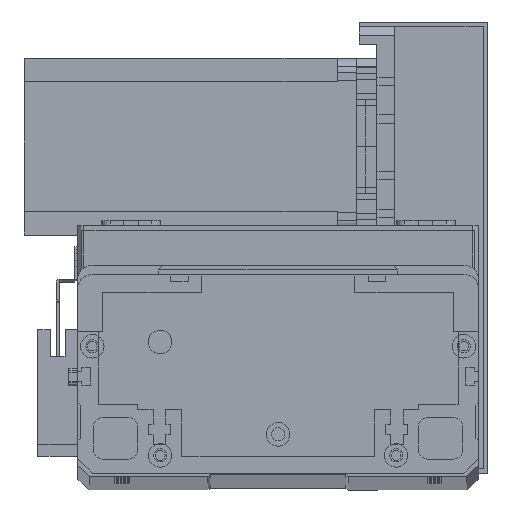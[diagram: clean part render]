
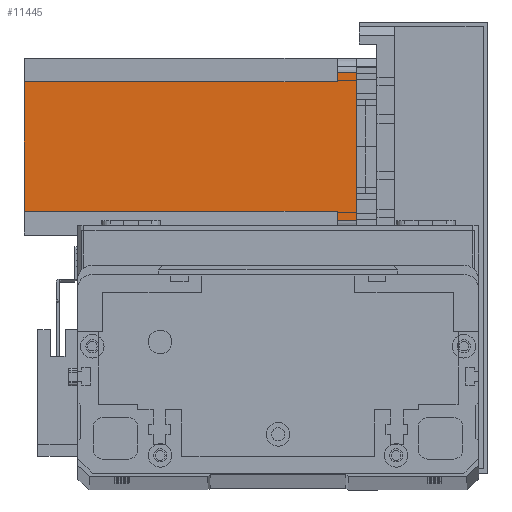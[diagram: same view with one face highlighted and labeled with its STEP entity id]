
A CAD part, top view. The second image highlights one B-rep face of the part: STEP entity #11445.
In plain terms, the highlighted planar face has unit normal (0, 0, 1) as drawn and (0, 1, 0) by its records, which use the part's own axes.
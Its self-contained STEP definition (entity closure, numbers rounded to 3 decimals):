
#361 = LINE ( 'NONE', #26801, #18244 ) ;
#514 = EDGE_CURVE ( 'NONE', #11299, #30194, #10725, .T. ) ;
#1059 = EDGE_CURVE ( 'NONE', #29862, #12212, #10695, .T. ) ;
#1213 = DIRECTION ( 'NONE',  ( -1., 0., 0. ) ) ;
#1455 = CARTESIAN_POINT ( 'NONE',  ( 0., 60., 0. ) ) ;
#1755 = CARTESIAN_POINT ( 'NONE',  ( 5., 60., -112.5 ) ) ;
#1860 = DIRECTION ( 'NONE',  ( 0., 0., 1. ) ) ;
#1911 = ORIENTED_EDGE ( 'NONE', *, *, #8126, .T. ) ;
#2149 = LINE ( 'NONE', #8212, #17695 ) ;
#3312 = VECTOR ( 'NONE', #23825, 1000. ) ;
#3923 = DIRECTION ( 'NONE',  ( 0., 0., 1. ) ) ;
#4081 = ORIENTED_EDGE ( 'NONE', *, *, #26977, .T. ) ;
#4279 = VERTEX_POINT ( 'NONE', #8508 ) ;
#4289 = DIRECTION ( 'NONE',  ( 0., 1., 0. ) ) ;
#4642 = CARTESIAN_POINT ( 'NONE',  ( 0., 60., -112.5 ) ) ;
#4652 = ORIENTED_EDGE ( 'NONE', *, *, #514, .F. ) ;
#4883 = VECTOR ( 'NONE', #10985, 1000. ) ;
#4911 = PLANE ( 'NONE',  #16287 ) ;
#5212 = EDGE_CURVE ( 'NONE', #13425, #21433, #7405, .T. ) ;
#5456 = CARTESIAN_POINT ( 'NONE',  ( 5., 60., 0. ) ) ;
#5492 = LINE ( 'NONE', #29986, #23786 ) ;
#6814 = CARTESIAN_POINT ( 'NONE',  ( 5., 60., -6.5 ) ) ;
#7405 = LINE ( 'NONE', #1455, #13097 ) ;
#7728 = ORIENTED_EDGE ( 'NONE', *, *, #5212, .F. ) ;
#7812 = CARTESIAN_POINT ( 'NONE',  ( 52., 60., -112.5 ) ) ;
#8126 = EDGE_CURVE ( 'NONE', #12212, #21433, #22864, .T. ) ;
#8212 = CARTESIAN_POINT ( 'NONE',  ( 52., 60., -6.5 ) ) ;
#8508 = CARTESIAN_POINT ( 'NONE',  ( 8., 60., -112.5 ) ) ;
#8805 = DIRECTION ( 'NONE',  ( -1., 0., 0. ) ) ;
#10680 = DIRECTION ( 'NONE',  ( 1., 0., 0. ) ) ;
#10695 = LINE ( 'NONE', #17966, #3312 ) ;
#10725 = LINE ( 'NONE', #7812, #4883 ) ;
#10985 = DIRECTION ( 'NONE',  ( 0., 0., 1. ) ) ;
#11299 = VERTEX_POINT ( 'NONE', #17780 ) ;
#11445 = ADVANCED_FACE ( 'NONE', ( #25536 ), #4911, .T. ) ;
#11739 = LINE ( 'NONE', #25264, #18029 ) ;
#11934 = CARTESIAN_POINT ( 'NONE',  ( 8., 60., -6.5 ) ) ;
#11951 = ORIENTED_EDGE ( 'NONE', *, *, #1059, .T. ) ;
#12013 = EDGE_LOOP ( 'NONE', ( #7728, #29341, #17888, #4652, #4081, #16918, #11951, #1911 ) ) ;
#12212 = VERTEX_POINT ( 'NONE', #6814 ) ;
#13097 = VECTOR ( 'NONE', #1213, 1000. ) ;
#13425 = VERTEX_POINT ( 'NONE', #30132 ) ;
#16076 = DIRECTION ( 'NONE',  ( 0., 0., -1. ) ) ;
#16287 = AXIS2_PLACEMENT_3D ( 'NONE', #4642, #4289, #3923 ) ;
#16918 = ORIENTED_EDGE ( 'NONE', *, *, #27614, .F. ) ;
#17695 = VECTOR ( 'NONE', #10680, 1000. ) ;
#17780 = CARTESIAN_POINT ( 'NONE',  ( 52., 60., -112.5 ) ) ;
#17888 = ORIENTED_EDGE ( 'NONE', *, *, #21475, .F. ) ;
#17966 = CARTESIAN_POINT ( 'NONE',  ( 8., 60., -6.5 ) ) ;
#18029 = VECTOR ( 'NONE', #8805, 1000. ) ;
#18244 = VECTOR ( 'NONE', #29162, 1000. ) ;
#18772 = EDGE_CURVE ( 'NONE', #13425, #23508, #361, .T. ) ;
#21433 = VERTEX_POINT ( 'NONE', #5456 ) ;
#21475 = EDGE_CURVE ( 'NONE', #30194, #23508, #2149, .T. ) ;
#22485 = CARTESIAN_POINT ( 'NONE',  ( 52., 60., -6.5 ) ) ;
#22864 = LINE ( 'NONE', #1755, #29001 ) ;
#23508 = VERTEX_POINT ( 'NONE', #30281 ) ;
#23786 = VECTOR ( 'NONE', #16076, 1000. ) ;
#23825 = DIRECTION ( 'NONE',  ( -1., 0., 0. ) ) ;
#25264 = CARTESIAN_POINT ( 'NONE',  ( 0., 60., -112.5 ) ) ;
#25536 = FACE_OUTER_BOUND ( 'NONE', #12013, .T. ) ;
#26801 = CARTESIAN_POINT ( 'NONE',  ( 55., 60., -112.5 ) ) ;
#26977 = EDGE_CURVE ( 'NONE', #11299, #4279, #11739, .T. ) ;
#27614 = EDGE_CURVE ( 'NONE', #29862, #4279, #5492, .T. ) ;
#29001 = VECTOR ( 'NONE', #1860, 1000. ) ;
#29162 = DIRECTION ( 'NONE',  ( 0., 0., -1. ) ) ;
#29341 = ORIENTED_EDGE ( 'NONE', *, *, #18772, .T. ) ;
#29862 = VERTEX_POINT ( 'NONE', #11934 ) ;
#29986 = CARTESIAN_POINT ( 'NONE',  ( 8., 60., -112.5 ) ) ;
#30132 = CARTESIAN_POINT ( 'NONE',  ( 55., 60., 0. ) ) ;
#30194 = VERTEX_POINT ( 'NONE', #22485 ) ;
#30281 = CARTESIAN_POINT ( 'NONE',  ( 55., 60., -6.5 ) ) ;
